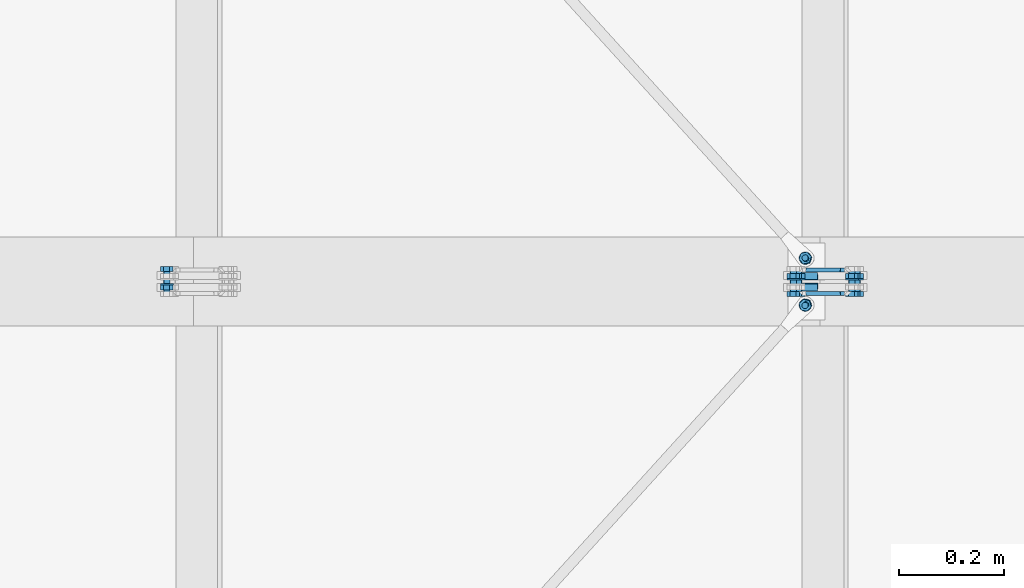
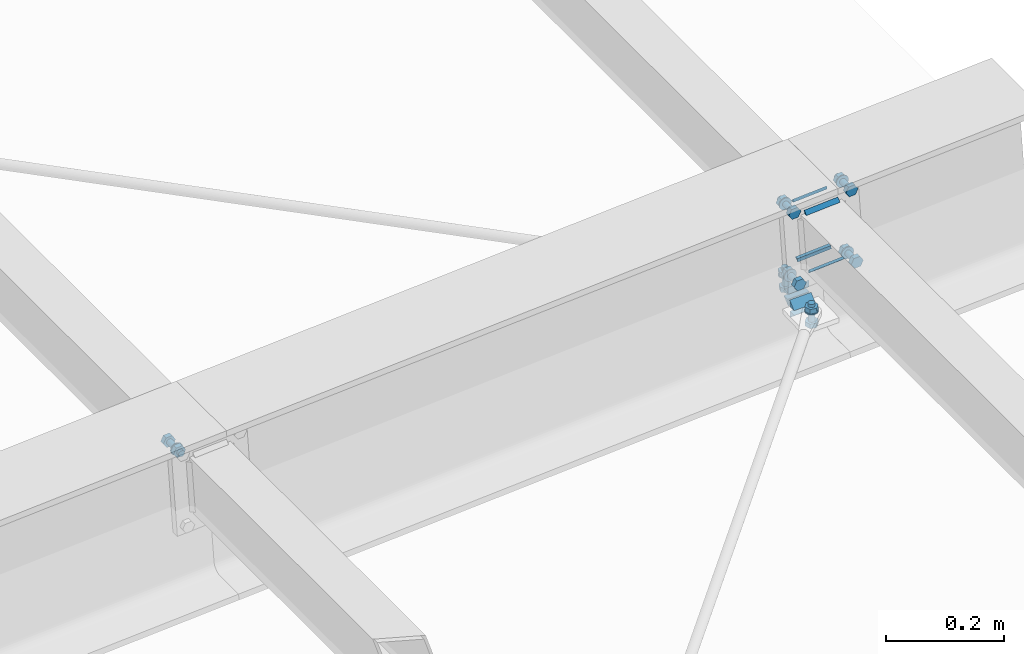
# One storey, part 61 of 72: 28 mechanical fasteners, 12 fasteners.
"""IFC4 building model written with IfcOpenShell, lengths in metres."""

from ifc_helpers import new_model, si_unit, frame, origin_with_axes, place, context, project, spatial, polyline, outline, extrude, type_object, element, save


model = new_model("IFC4")

# Units and contexts
model_context = context("Model", 3, precision=1e-05, world=origin_with_axes())
ifc_project = project(units=[si_unit("LENGTHUNIT", "METRE"), si_unit("AREAUNIT", "SQUARE_METRE"), si_unit("VOLUMEUNIT", "CUBIC_METRE"), si_unit("MASSUNIT", "GRAM", prefix="KILO"), si_unit("TIMEUNIT", "SECOND"), si_unit("PLANEANGLEUNIT", "RADIAN"), si_unit("SOLIDANGLEUNIT", "STERADIAN"), si_unit("THERMODYNAMICTEMPERATUREUNIT", "DEGREE_CELSIUS")], contexts=[model_context])

# Site, building, storey
placement_1 = place(None, origin_with_axes())
site = spatial("IfcSite", under=ifc_project, at=placement_1, Name="Italia", CompositionType="ELEMENT")
building = spatial("IfcBuilding", under=site, at=placement_1, Name="Pensilina", CompositionType="ELEMENT")
storey = spatial("IfcBuildingStorey", under=building, at=placement_1, Name="Storey 0", CompositionType="ELEMENT", Elevation=0.0)

# Mechanical fasteners
mechanical_fastener_type_1 = type_object("IfcMechanicalFastenerType", Name="Collegamento 0504_0505", PredefinedType="BOLT")
placement_2 = place(placement_1, origin_with_axes())
mechanical_fastener_1_placement = place(placement_2, origin_with_axes())
element("IfcMechanicalFastener", 1, at=mechanical_fastener_1_placement, inside=storey, type_object=mechanical_fastener_type_1, Name="Collegamento 0504_0505", NominalDiameter=0.012, context=model_context, shape_type="SweptSolid", body=[
    extrude(outline(polyline([(0.0, 0.0, 0.0), (-0.0119729, 0.000807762, 0.0), (-0.0172596, 0.0115805, 0.0), (-0.0105739, 0.0215454, 0.0), (0.00139904, 0.0207376, 0.0), (0.00668573, 0.00996494, 0.0), (0.0, 0.0, 0.0)])), frame((4.54633, 15.859, 4.00461), z_axis=(0.0, 1.0, 0.0), x_axis=(-1.0, 0.0, 0.0)), (0.0, 0.0, 1.0), 0.00959969),
])
mechanical_fastener_type_2 = type_object("IfcMechanicalFastenerType", Name="Collegamento 0504_0505", PredefinedType="BOLT")
mechanical_fastener_2_placement = place(placement_2, origin_with_axes())
element("IfcMechanicalFastener", 2, at=mechanical_fastener_2_placement, inside=storey, type_object=mechanical_fastener_type_2, Name="Collegamento 0504_0505", NominalDiameter=0.012, context=model_context, shape_type="SweptSolid", body=[
    extrude(outline(polyline([(0.0, 0.0, 0.0), (-0.000204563, -0.00155306, 0.0), (-0.000803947, -0.00299978, 0.0), (-0.00175762, -0.00424242, 0.0), (-0.00300026, -0.00519609, 0.0), (-0.00444698, -0.00579548, 0.0), (-0.00600004, -0.00600004, 0.0), (-0.0075531, -0.00579548, 0.0), (-0.00899982, -0.00519609, 0.0), (-0.0102425, -0.00424242, 0.0), (-0.0111961, -0.00299978, 0.0), (-0.0117955, -0.00155306, 0.0), (-0.0120001, 0.0, 0.0), (-0.0117955, 0.00155306, 0.0), (-0.0111961, 0.00299978, 0.0), (-0.0102425, 0.00424242, 0.0), (-0.00899982, 0.00519609, 0.0), (-0.0075531, 0.00579548, 0.0), (-0.00600004, 0.00600004, 0.0), (-0.00444698, 0.00579548, 0.0), (-0.00300026, 0.00519609, 0.0), (-0.00175762, 0.00424242, 0.0), (-0.000803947, 0.00299978, 0.0), (-0.000204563, 0.00155306, 0.0), (0.0, 0.0, 0.0)])), frame((4.54562, 15.818, 4.01539), z_axis=(0.0, 1.0, 0.0), x_axis=(-1.0, 0.0, 0.0)), (0.0, 0.0, 1.0), 0.0410004),
])
mechanical_fastener_type_3 = type_object("IfcMechanicalFastenerType", Name="Collegamento 0504_0505", PredefinedType="BOLT")
mechanical_fastener_3_placement = place(placement_2, origin_with_axes())
element("IfcMechanicalFastener", 3, at=mechanical_fastener_3_placement, inside=storey, type_object=mechanical_fastener_type_3, Name="Collegamento 0504_0505", NominalDiameter=0.012, context=model_context, shape_type="SweptSolid", body=[
    extrude(outline(polyline([(0.0, 0.0, 0.0), (-0.0119729, 0.000807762, 0.0), (-0.0172596, 0.0115805, 0.0), (-0.0105739, 0.0215454, 0.0), (0.00139904, 0.0207376, 0.0), (0.00668573, 0.00996494, 0.0), (0.0, 0.0, 0.0)])), frame((4.54633, 15.8244, 4.00461), z_axis=(0.0, 1.0, 0.0), x_axis=(-1.0, 0.0, 0.0)), (0.0, 0.0, 1.0), 0.00959969),
])
mechanical_fastener_type_4 = type_object("IfcMechanicalFastenerType", Name="Collegamento 0504_0505", PredefinedType="BOLT")
mechanical_fastener_4_placement = place(placement_2, origin_with_axes())
element("IfcMechanicalFastener", 4, at=mechanical_fastener_4_placement, inside=storey, type_object=mechanical_fastener_type_4, Name="Collegamento 0504_0505", NominalDiameter=0.024, context=model_context, shape_type="SweptSolid", body=[
    extrude(outline(polyline([(0.0, 0.0, 0.0), (-0.000409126, -0.00310564, 0.0), (-0.00160789, -0.00600004, 0.0), (-0.00351477, -0.00848532, 0.0), (-0.00600004, -0.0103922, 0.0), (-0.00889444, -0.011591, 0.0), (-0.0120001, -0.0120001, 0.0), (-0.0151057, -0.011591, 0.0), (-0.0180001, -0.0103922, 0.0), (-0.0204854, -0.00848532, 0.0), (-0.0223923, -0.00600004, 0.0), (-0.023591, -0.00310564, 0.0), (-0.0240002, 0.0, 0.0), (-0.023591, 0.00310564, 0.0), (-0.0223923, 0.00600004, 0.0), (-0.0204854, 0.00848532, 0.0), (-0.0180001, 0.0103922, 0.0), (-0.0151057, 0.011591, 0.0), (-0.0120001, 0.0120001, 0.0), (-0.00889444, 0.011591, 0.0), (-0.00600004, 0.0103922, 0.0), (-0.00351477, 0.00848532, 0.0), (-0.00160789, 0.00600004, 0.0), (-0.000409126, 0.00310564, 0.0), (0.0, 0.0, 0.0)])), frame((4.53962, 15.834, 4.01539), z_axis=(0.0, 1.0, 0.0), x_axis=(-1.0, 0.0, 0.0)), (0.0, 0.0, 1.0), 0.00199986),
])
mechanical_fastener_type_5 = type_object("IfcMechanicalFastenerType", Name="Collegamento 0604_0203", PredefinedType="BOLT")
mechanical_fastener_5_placement = place(placement_2, origin_with_axes())
element("IfcMechanicalFastener", 5, at=mechanical_fastener_5_placement, inside=storey, type_object=mechanical_fastener_type_5, Name="Collegamento 0604_0203", NominalDiameter=0.0119997, context=model_context, shape_type="SweptSolid", body=[
    extrude(outline(polyline([(0.0, 0.0, 0.0), (-4.76837e-07, 0.0120001, 0.0), (-0.0103927, 0.0180006, 0.0), (-0.0207849, 0.0120001, 0.0), (-0.0207849, 0.0, 0.0), (-0.0103922, -0.00599957, 0.0), (0.0, 0.0, 0.0)])), frame((5.7607, 15.7984, 3.87753), z_axis=(0.030993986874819, 0.034172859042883, -0.998935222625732), x_axis=(-0.740719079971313, 0.671814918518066, 0.0)), (0.0, 0.0, 1.0), 0.00960013),
])
mechanical_fastener_type_6 = type_object("IfcMechanicalFastenerType", Name="Collegamento 0604_0203", PredefinedType="BOLT")
mechanical_fastener_6_placement = place(placement_2, origin_with_axes())
element("IfcMechanicalFastener", 6, at=mechanical_fastener_6_placement, inside=storey, type_object=mechanical_fastener_type_6, Name="Collegamento 0604_0203", NominalDiameter=0.012, context=model_context, shape_type="SweptSolid", body=[
    extrude(outline(polyline([(0.0, 0.0, 0.0), (-0.000204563, -0.00155258, 0.0), (-0.000803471, -0.00300026, 0.0), (-0.00175762, -0.0042429, 0.0), (-0.00299978, -0.00519562, 0.0), (-0.00444698, -0.00579548, 0.0), (-0.00600052, -0.00600052, 0.0), (-0.00755262, -0.00579548, 0.0), (-0.00899982, -0.00519562, 0.0), (-0.0102425, -0.0042429, 0.0), (-0.0111957, -0.00300026, 0.0), (-0.0117955, -0.00155258, 0.0), (-0.0120001, 0.0, 0.0), (-0.0117955, 0.00155258, 0.0), (-0.0111966, 0.00300026, 0.0), (-0.0102425, 0.0042429, 0.0), (-0.0090003, 0.00519562, 0.0), (-0.0075531, 0.00579548, 0.0), (-0.00599957, 0.00600052, 0.0), (-0.00444746, 0.00579548, 0.0), (-0.00300026, 0.00519562, 0.0), (-0.00175762, 0.0042429, 0.0), (-0.000804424, 0.00300026, 0.0), (-0.000204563, 0.00155258, 0.0), (0.0, 0.0, 0.0)])), frame((5.7668, 15.7985, 3.91576), z_axis=(0.030981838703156, 0.034181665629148, -0.998935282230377), x_axis=(-0.74093621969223, 0.671575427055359, 0.0)), (0.0, 0.0, 1.0), 0.038),
])
mechanical_fastener_type_7 = type_object("IfcMechanicalFastenerType", Name="Collegamento 0604_0203", PredefinedType="BOLT")
mechanical_fastener_7_placement = place(placement_2, origin_with_axes())
element("IfcMechanicalFastener", 7, at=mechanical_fastener_7_placement, inside=storey, type_object=mechanical_fastener_type_7, Name="Collegamento 0604_0203", NominalDiameter=0.0119995, context=model_context, shape_type="SweptSolid", body=[
    extrude(outline(polyline([(0.0, 0.0, 0.0), (4.76837e-07, 0.012001, 0.0), (-0.0103922, 0.0180006, 0.0), (-0.0207844, 0.012001, 0.0), (-0.0207839, 9.53674e-07, 0.0), (-0.0103927, -0.00599957, 0.0), (0.0, 0.0, 0.0)])), frame((5.75972, 15.7973, 3.90909), z_axis=(0.030993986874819, 0.034172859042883, -0.998935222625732), x_axis=(-0.740719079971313, 0.671814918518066, 0.0)), (0.0, 0.0, 1.0), 0.00960013),
])
mechanical_fastener_type_8 = type_object("IfcMechanicalFastenerType", Name="Collegamento 0604_0203", PredefinedType="BOLT")
mechanical_fastener_8_placement = place(placement_2, origin_with_axes())
element("IfcMechanicalFastener", 8, at=mechanical_fastener_8_placement, inside=storey, type_object=mechanical_fastener_type_8, Name="Collegamento 0604_0203", NominalDiameter=0.024, context=model_context, shape_type="SweptSolid", body=[
    extrude(outline(polyline([(0.0, 0.0, 0.0), (-0.000409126, -0.00310612, 0.0), (-0.00160789, -0.00600052, 0.0), (-0.00351524, -0.00848579, 0.0), (-0.00600052, -0.0103931, 0.0), (-0.00889444, -0.0115919, 0.0), (-0.0120006, -0.0120001, 0.0), (-0.0151057, -0.0115919, 0.0), (-0.0180001, -0.0103922, 0.0), (-0.0204859, -0.00848579, 0.0), (-0.0223927, -0.00600052, 0.0), (-0.0235915, -0.00310707, 0.0), (-0.0240006, -9.53674e-07, 0.0), (-0.023592, 0.00310516, 0.0), (-0.0223927, 0.00599957, 0.0), (-0.0204854, 0.00848484, 0.0), (-0.0180001, 0.0103922, 0.0), (-0.0151062, 0.01159, 0.0), (-0.0120006, 0.0119991, 0.0), (-0.00889492, 0.01159, 0.0), (-0.00600052, 0.0103912, 0.0), (-0.00351477, 0.00848484, 0.0), (-0.00160837, 0.00599957, 0.0), (-0.000409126, 0.00310516, 0.0), (0.0, 0.0, 0.0)])), frame((5.76289, 15.8032, 3.89978), z_axis=(0.030997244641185, 0.03385853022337, -0.998945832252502), x_axis=(-0.737585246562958, 0.675254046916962, 0.0)), (0.0, 0.0, 1.0), 0.00199982),
])

# Fasteners
fastener_type_1 = type_object("IfcFastenerType", Name="Collegamento 0604_0203", PredefinedType="WELD")
fastener_1_placement = place(placement_2, origin_with_axes())
element("IfcFastener", 9, at=fastener_1_placement, inside=storey, type_object=fastener_type_1, Name="Collegamento 0604_0203", context=model_context, shape_type="SweptSolid", body=[
    extrude(outline(polyline([(0.0, 0.0, 0.0), (0.0136957, -0.0142241, 0.0), (-0.000469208, -0.0137401, 0.0), (0.0, 0.0, 0.0)])), frame((5.79466, 15.8358, 3.90358), z_axis=(-0.99951958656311, 0.0, -0.030993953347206), x_axis=(0.0, -1.0, 0.0)), (0.0, 0.0, 1.0), 0.0421006),
])
fastener_type_2 = type_object("IfcFastenerType", Name="Collegamento 0604_0203", PredefinedType="WELD")
fastener_2_placement = place(placement_2, origin_with_axes())
element("IfcFastener", 10, at=fastener_2_placement, inside=storey, type_object=fastener_type_2, Name="Collegamento 0604_0203", context=model_context, shape_type="SweptSolid", body=[
    extrude(outline(polyline([(0.0, 0.0, 0.0), (-0.0146341, 0.0132563, 0.0), (-0.000469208, 0.0137403, 0.0), (0.0, 0.0, 0.0)])), frame((5.75374, 15.837, 3.86492), z_axis=(0.999519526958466, 0.0, 0.030995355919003), x_axis=(0.0, 1.0, 0.0)), (0.0, 0.0, 1.0), 0.0420987),
])

# Mechanical fasteners
mechanical_fastener_type_9 = type_object("IfcMechanicalFastenerType", Name="Collegamento 0604_0205", PredefinedType="BOLT")
mechanical_fastener_9_placement = place(placement_2, origin_with_axes())
element("IfcMechanicalFastener", 11, at=mechanical_fastener_9_placement, inside=storey, type_object=mechanical_fastener_type_9, Name="Collegamento 0604_0205", NominalDiameter=0.0119994, context=model_context, shape_type="SweptSolid", body=[
    extrude(outline(polyline([(0.0, 0.0, 0.0), (-7.62939e-06, 0.0119996, 0.0), (-0.0104036, 0.017993, 0.0), (-0.020793, 0.0119863, 0.0), (-0.0207844, -1.38283e-05, 0.0), (-0.0103884, -0.00600719, 0.0), (0.0, 0.0, 0.0)])), frame((5.7761, 15.8956, 3.89755), z_axis=(0.030945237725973, -0.034074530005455, -0.998940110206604), x_axis=(0.740281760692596, 0.672296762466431, 0.0)), (0.0, 0.0, 1.0), 0.00959985),
])
mechanical_fastener_type_10 = type_object("IfcMechanicalFastenerType", Name="Collegamento 0604_0205", PredefinedType="BOLT")
mechanical_fastener_10_placement = place(placement_2, origin_with_axes())
element("IfcMechanicalFastener", 12, at=mechanical_fastener_10_placement, inside=storey, type_object=mechanical_fastener_type_10, Name="Collegamento 0604_0205", NominalDiameter=0.012, context=model_context, shape_type="SweptSolid", body=[
    extrude(outline(polyline([(0.0, 0.0, 0.0), (-0.000204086, -0.00155258, 0.0), (-0.000803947, -0.00299978, 0.0), (-0.00175762, -0.0042429, 0.0), (-0.00300026, -0.00519609, 0.0), (-0.00444698, -0.00579548, 0.0), (-0.00599957, -0.00600052, 0.0), (-0.0075531, -0.00579548, 0.0), (-0.00899982, -0.00519609, 0.0), (-0.0102425, -0.00424242, 0.0), (-0.0111961, -0.00300026, 0.0), (-0.011795, -0.00155306, 0.0), (-0.0120001, 0.0, 0.0), (-0.011795, 0.00155258, 0.0), (-0.0111952, 0.00299978, 0.0), (-0.0102425, 0.00424242, 0.0), (-0.00899982, 0.00519562, 0.0), (-0.00755215, 0.005795, 0.0), (-0.00600052, 0.00600004, 0.0), (-0.00444698, 0.005795, 0.0), (-0.00299931, 0.00519609, 0.0), (-0.00175762, 0.00424242, 0.0), (-0.000802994, 0.00299978, 0.0), (-0.000204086, 0.00155258, 0.0), (0.0, 0.0, 0.0)])), frame((5.7757, 15.8895, 3.93578), z_axis=(0.030981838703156, -0.034181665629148, -0.998935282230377), x_axis=(0.74093621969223, 0.671575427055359, 0.0)), (0.0, 0.0, 1.0), 0.038),
])
mechanical_fastener_type_11 = type_object("IfcMechanicalFastenerType", Name="Collegamento 0604_0205", PredefinedType="BOLT")
mechanical_fastener_11_placement = place(placement_2, origin_with_axes())
element("IfcMechanicalFastener", 13, at=mechanical_fastener_11_placement, inside=storey, type_object=mechanical_fastener_type_11, Name="Collegamento 0604_0205", NominalDiameter=0.0119997, context=model_context, shape_type="SweptSolid", body=[
    extrude(outline(polyline([(0.0, 0.0, 0.0), (-9.53674e-07, 0.0120001, 0.0), (-0.0103931, 0.0180001, 0.0), (-0.0207853, 0.0119996, 0.0), (-0.0207853, 0.0, 0.0), (-0.0103922, -0.00600052, 0.0), (0.0, 0.0, 0.0)])), frame((5.77512, 15.8967, 3.92911), z_axis=(0.030994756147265, -0.034173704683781, -0.998935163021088), x_axis=(0.740719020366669, 0.671814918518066, 0.0)), (0.0, 0.0, 1.0), 0.00959989),
])
mechanical_fastener_type_12 = type_object("IfcMechanicalFastenerType", Name="Collegamento 0604_0205", PredefinedType="BOLT")
mechanical_fastener_12_placement = place(placement_2, origin_with_axes())
element("IfcMechanicalFastener", 14, at=mechanical_fastener_12_placement, inside=storey, type_object=mechanical_fastener_type_12, Name="Collegamento 0604_0205", NominalDiameter=0.024, context=model_context, shape_type="SweptSolid", body=[
    extrude(outline(polyline([(0.0, 0.0, 0.0), (-0.00041008, -0.00310564, 0.0), (-0.00160885, -0.00600004, 0.0), (-0.00351524, -0.00848532, 0.0), (-0.00600052, -0.0103927, 0.0), (-0.00889492, -0.011591, 0.0), (-0.012001, -0.0120006, 0.0), (-0.0151062, -0.0115914, 0.0), (-0.0180006, -0.0103927, 0.0), (-0.0204859, -0.00848532, 0.0), (-0.0223932, -0.00600052, 0.0), (-0.023592, -0.00310564, 0.0), (-0.0240011, 0.0, 0.0), (-0.023591, 0.00310564, 0.0), (-0.0223923, 0.00600004, 0.0), (-0.0204859, 0.00848484, 0.0), (-0.0180006, 0.0103922, 0.0), (-0.0151062, 0.011591, 0.0), (-0.012001, 0.0120001, 0.0), (-0.00889492, 0.011591, 0.0), (-0.00600052, 0.0103922, 0.0), (-0.00351524, 0.00848484, 0.0), (-0.00160885, 0.00600004, 0.0), (-0.000409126, 0.00310564, 0.0), (0.0, 0.0, 0.0)])), frame((5.78065, 15.893, 3.9198), z_axis=(0.030993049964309, -0.034330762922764, -0.998929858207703), x_axis=(0.742268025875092, 0.670103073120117, 0.0)), (0.0, 0.0, 1.0), 0.00200009),
])

# Fasteners
fastener_type_3 = type_object("IfcFastenerType", Name="Collegamento 0604_0205", PredefinedType="WELD")
fastener_3_placement = place(placement_2, origin_with_axes())
element("IfcFastener", 15, at=fastener_3_placement, inside=storey, type_object=fastener_type_3, Name="Collegamento 0604_0205", context=model_context, shape_type="SweptSolid", body=[
    extrude(outline(polyline([(0.0, 0.0, 0.0), (0.0136957, -0.0142243, 0.0), (-0.000469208, -0.0137403, 0.0), (0.0, 0.0, 0.0)])), frame((5.75258, 15.8442, 3.9223), z_axis=(0.999519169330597, 0.0, 0.031006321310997), x_axis=(0.0, 1.0, 0.0)), (0.0, 0.0, 1.0), 0.0420992),
])
fastener_type_4 = type_object("IfcFastenerType", Name="Collegamento 0604_0205", PredefinedType="WELD")
fastener_4_placement = place(placement_2, origin_with_axes())
element("IfcFastener", 16, at=fastener_4_placement, inside=storey, type_object=fastener_type_4, Name="Collegamento 0604_0205", context=model_context, shape_type="SweptSolid", body=[
    extrude(outline(polyline([(0.0, 0.0, 0.0), (-0.0146341, 0.0132561, 0.0), (-0.000469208, 0.0137403, 0.0), (0.0, 0.0, 0.0)])), frame((5.79582, 15.843, 3.88625), z_axis=(-0.999519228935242, 0.0, -0.031005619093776), x_axis=(0.0, -1.0, 0.0)), (0.0, 0.0, 1.0), 0.0421002),
])
fastener_type_5 = type_object("IfcFastenerType", Name="Collegamento 0604_0603", PredefinedType="WELD")
fastener_5_placement = place(placement_2, origin_with_axes())
element("IfcFastener", 17, at=fastener_5_placement, inside=storey, type_object=fastener_type_5, Name="Collegamento 0604_0603", context=model_context, shape_type="SweptSolid", body=[
    extrude(outline(polyline([(0.0, 0.0, 0.0), (0.00717354, -0.00695801, 0.0), (0.0, -0.00695801, 0.0), (0.0, 0.0, 0.0)])), frame((5.83828, 15.8211, 4.09456), z_axis=(-0.997731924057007, 0.0, -0.067312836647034), x_axis=(0.0, -1.0, 0.0)), (0.0, 0.0, 1.0), 0.0660998),
])
fastener_type_6 = type_object("IfcFastenerType", Name="Collegamento 0604_0603", PredefinedType="WELD")
fastener_6_placement = place(placement_2, origin_with_axes())
element("IfcFastener", 18, at=fastener_6_placement, inside=storey, type_object=fastener_type_6, Name="Collegamento 0604_0603", context=model_context, shape_type="SweptSolid", body=[
    extrude(outline(polyline([(0.0, 0.0, 0.0), (-0.00717354, 0.00695801, 0.0), (0.0, 0.00695801, 0.0), (0.0, 0.0, 0.0)])), frame((5.78134, 15.8211, 3.9566), z_axis=(0.997731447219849, 0.0, 0.06731953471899), x_axis=(0.0, 1.0, 0.0)), (0.0, 0.0, 1.0), 0.0661003),
])
fastener_type_7 = type_object("IfcFastenerType", Name="Collegamento 0604_0603", PredefinedType="WELD")
fastener_7_placement = place(placement_2, origin_with_axes())
element("IfcFastener", 19, at=fastener_7_placement, inside=storey, type_object=fastener_type_7, Name="Collegamento 0604_0603", context=model_context, shape_type="SweptSolid", body=[
    extrude(outline(polyline([(0.0, 0.0, 0.0), (0.00717354, -0.00695801, 0.0), (0.0, -0.00695801, 0.0), (0.0, 0.0, 0.0)])), frame((5.83828, 15.8211, 4.09456), z_axis=(-0.997731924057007, 0.0, -0.067312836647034), x_axis=(0.0, -1.0, 0.0)), (0.0, 0.0, 1.0), 0.0660998),
])
fastener_type_8 = type_object("IfcFastenerType", Name="Collegamento 0604_0603", PredefinedType="WELD")
fastener_8_placement = place(placement_2, origin_with_axes())
element("IfcFastener", 20, at=fastener_8_placement, inside=storey, type_object=fastener_type_8, Name="Collegamento 0604_0603", context=model_context, shape_type="SweptSolid", body=[
    extrude(outline(polyline([(0.0, 0.0, 0.0), (-0.00717354, 0.00695801, 0.0), (0.0, 0.00695801, 0.0), (0.0, 0.0, 0.0)])), frame((5.78134, 15.8211, 3.9566), z_axis=(0.997731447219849, 0.0, 0.06731953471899), x_axis=(0.0, 1.0, 0.0)), (0.0, 0.0, 1.0), 0.0661003),
])

# Mechanical fasteners
mechanical_fastener_type_13 = type_object("IfcMechanicalFastenerType", Name="Collegamento 0604_0603", PredefinedType="BOLT")
mechanical_fastener_13_placement = place(placement_2, origin_with_axes())
element("IfcMechanicalFastener", 21, at=mechanical_fastener_13_placement, inside=storey, type_object=mechanical_fastener_type_13, Name="Collegamento 0604_0603", NominalDiameter=0.0119998, context=model_context, shape_type="SweptSolid", body=[
    extrude(outline(polyline([(0.0, 0.0, 0.0), (-0.0119729, -0.000807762, 0.0), (-0.0186586, 0.00915718, 0.0), (-0.0133719, 0.0199296, 0.0), (-0.00139904, 0.0207376, 0.0), (0.00528669, 0.0107727, 0.0), (0.0, 0.0, 0.0)])), frame((5.76574, 15.821, 3.93602), z_axis=(0.0, -1.0, 0.0), x_axis=(1.0, 0.0, 0.0)), (0.0, 0.0, 1.0), 0.00959969),
])
mechanical_fastener_type_14 = type_object("IfcMechanicalFastenerType", Name="Collegamento 0604_0603", PredefinedType="BOLT")
mechanical_fastener_14_placement = place(placement_2, origin_with_axes())
element("IfcMechanicalFastener", 22, at=mechanical_fastener_14_placement, inside=storey, type_object=mechanical_fastener_type_14, Name="Collegamento 0604_0603", NominalDiameter=0.012, context=model_context, shape_type="SweptSolid", body=[
    extrude(outline(polyline([(0.0, 0.0, 0.0), (-0.000204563, -0.00155282, 0.0), (-0.000803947, -0.00300002, 0.0), (-0.00175762, -0.00424266, 0.0), (-0.00300026, -0.00519609, 0.0), (-0.00444698, -0.00579548, 0.0), (-0.00600004, -0.00600004, 0.0), (-0.0075531, -0.00579548, 0.0), (-0.00899982, -0.00519609, 0.0), (-0.0102425, -0.00424266, 0.0), (-0.0111961, -0.00300002, 0.0), (-0.0117955, -0.00155282, 0.0), (-0.0120001, 0.0, 0.0), (-0.0117955, 0.00155282, 0.0), (-0.0111961, 0.00300002, 0.0), (-0.0102425, 0.00424266, 0.0), (-0.00899982, 0.00519609, 0.0), (-0.0075531, 0.00579548, 0.0), (-0.00600004, 0.00600004, 0.0), (-0.00444698, 0.00579548, 0.0), (-0.00300026, 0.00519609, 0.0), (-0.00175762, 0.00424266, 0.0), (-0.000803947, 0.00300002, 0.0), (-0.000204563, 0.00155282, 0.0), (0.0, 0.0, 0.0)])), frame((5.76506, 15.862, 3.94598), z_axis=(0.0, -1.0, 0.0), x_axis=(1.0, 0.0, 0.0)), (0.0, 0.0, 1.0), 0.0410004),
])
mechanical_fastener_type_15 = type_object("IfcMechanicalFastenerType", Name="Collegamento 0604_0603", PredefinedType="BOLT")
mechanical_fastener_15_placement = place(placement_2, origin_with_axes())
element("IfcMechanicalFastener", 23, at=mechanical_fastener_15_placement, inside=storey, type_object=mechanical_fastener_type_15, Name="Collegamento 0604_0603", NominalDiameter=0.0119998, context=model_context, shape_type="SweptSolid", body=[
    extrude(outline(polyline([(0.0, 0.0, 0.0), (-0.0119729, -0.000807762, 0.0), (-0.0186586, 0.00915718, 0.0), (-0.0133719, 0.0199296, 0.0), (-0.00139904, 0.0207376, 0.0), (0.00528669, 0.0107727, 0.0), (0.0, 0.0, 0.0)])), frame((5.76574, 15.8556, 3.93602), z_axis=(0.0, -1.0, 0.0), x_axis=(1.0, 0.0, 0.0)), (0.0, 0.0, 1.0), 0.00959969),
])
mechanical_fastener_type_16 = type_object("IfcMechanicalFastenerType", Name="Collegamento 0604_0603", PredefinedType="BOLT")
mechanical_fastener_16_placement = place(placement_2, origin_with_axes())
element("IfcMechanicalFastener", 24, at=mechanical_fastener_16_placement, inside=storey, type_object=mechanical_fastener_type_16, Name="Collegamento 0604_0603", NominalDiameter=0.024, context=model_context, shape_type="SweptSolid", body=[
    extrude(outline(polyline([(0.0, 0.0, 0.0), (-0.000409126, -0.00310588, 0.0), (-0.00160789, -0.00600004, 0.0), (-0.00351477, -0.00848532, 0.0), (-0.00600004, -0.0103922, 0.0), (-0.00889444, -0.0115912, 0.0), (-0.0120001, -0.0120001, 0.0), (-0.0151057, -0.0115912, 0.0), (-0.0180001, -0.0103922, 0.0), (-0.0204854, -0.00848532, 0.0), (-0.0223923, -0.00600004, 0.0), (-0.023591, -0.00310588, 0.0), (-0.0240002, 0.0, 0.0), (-0.023591, 0.00310588, 0.0), (-0.0223923, 0.00600004, 0.0), (-0.0204854, 0.00848532, 0.0), (-0.0180001, 0.0103922, 0.0), (-0.0151057, 0.0115912, 0.0), (-0.0120001, 0.0120001, 0.0), (-0.00889444, 0.0115912, 0.0), (-0.00600004, 0.0103922, 0.0), (-0.00351477, 0.00848532, 0.0), (-0.00160789, 0.00600004, 0.0), (-0.000409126, 0.00310588, 0.0), (0.0, 0.0, 0.0)])), frame((5.77106, 15.846, 3.94598), z_axis=(0.0, -1.0, 0.0), x_axis=(1.0, 0.0, 0.0)), (0.0, 0.0, 1.0), 0.00199986),
])
mechanical_fastener_type_17 = type_object("IfcMechanicalFastenerType", Name="Collegamento 0604_0603", PredefinedType="BOLT")
mechanical_fastener_17_placement = place(placement_2, origin_with_axes())
element("IfcMechanicalFastener", 25, at=mechanical_fastener_17_placement, inside=storey, type_object=mechanical_fastener_type_17, Name="Collegamento 0604_0603", NominalDiameter=0.0119998, context=model_context, shape_type="SweptSolid", body=[
    extrude(outline(polyline([(0.0, 0.0, 0.0), (-0.0119729, -0.000807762, 0.0), (-0.0186586, 0.00915718, 0.0), (-0.0133719, 0.0199296, 0.0), (-0.00139904, 0.0207376, 0.0), (0.00528669, 0.0107727, 0.0), (0.0, 0.0, 0.0)])), frame((5.87749, 15.821, 3.94355), z_axis=(0.0, -1.0, 0.0), x_axis=(1.0, 0.0, 0.0)), (0.0, 0.0, 1.0), 0.00959969),
])
mechanical_fastener_type_18 = type_object("IfcMechanicalFastenerType", Name="Collegamento 0604_0603", PredefinedType="BOLT")
mechanical_fastener_18_placement = place(placement_2, origin_with_axes())
element("IfcMechanicalFastener", 26, at=mechanical_fastener_18_placement, inside=storey, type_object=mechanical_fastener_type_18, Name="Collegamento 0604_0603", NominalDiameter=0.012, context=model_context, shape_type="SweptSolid", body=[
    extrude(outline(polyline([(0.0, 0.0, 0.0), (-0.000204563, -0.00155282, 0.0), (-0.000803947, -0.00300002, 0.0), (-0.00175762, -0.00424266, 0.0), (-0.00300026, -0.00519609, 0.0), (-0.00444698, -0.00579548, 0.0), (-0.00600004, -0.00600004, 0.0), (-0.0075531, -0.00579548, 0.0), (-0.00899982, -0.00519609, 0.0), (-0.0102425, -0.00424266, 0.0), (-0.0111961, -0.00300002, 0.0), (-0.0117955, -0.00155282, 0.0), (-0.0120001, 0.0, 0.0), (-0.0117955, 0.00155282, 0.0), (-0.0111961, 0.00300002, 0.0), (-0.0102425, 0.00424266, 0.0), (-0.00899982, 0.00519609, 0.0), (-0.0075531, 0.00579548, 0.0), (-0.00600004, 0.00600004, 0.0), (-0.00444698, 0.00579548, 0.0), (-0.00300026, 0.00519609, 0.0), (-0.00175762, 0.00424266, 0.0), (-0.000803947, 0.00300002, 0.0), (-0.000204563, 0.00155282, 0.0), (0.0, 0.0, 0.0)])), frame((5.8768, 15.862, 3.95352), z_axis=(0.0, -1.0, 0.0), x_axis=(1.0, 0.0, 0.0)), (0.0, 0.0, 1.0), 0.0410004),
])
mechanical_fastener_type_19 = type_object("IfcMechanicalFastenerType", Name="Collegamento 0604_0603", PredefinedType="BOLT")
mechanical_fastener_19_placement = place(placement_2, origin_with_axes())
element("IfcMechanicalFastener", 27, at=mechanical_fastener_19_placement, inside=storey, type_object=mechanical_fastener_type_19, Name="Collegamento 0604_0603", NominalDiameter=0.0119998, context=model_context, shape_type="SweptSolid", body=[
    extrude(outline(polyline([(0.0, 0.0, 0.0), (-0.0119729, -0.000807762, 0.0), (-0.0186586, 0.00915718, 0.0), (-0.0133719, 0.0199296, 0.0), (-0.00139904, 0.0207376, 0.0), (0.00528669, 0.0107727, 0.0), (0.0, 0.0, 0.0)])), frame((5.87749, 15.8556, 3.94355), z_axis=(0.0, -1.0, 0.0), x_axis=(1.0, 0.0, 0.0)), (0.0, 0.0, 1.0), 0.00959969),
])
mechanical_fastener_type_20 = type_object("IfcMechanicalFastenerType", Name="Collegamento 0604_0603", PredefinedType="BOLT")
mechanical_fastener_20_placement = place(placement_2, origin_with_axes())
element("IfcMechanicalFastener", 28, at=mechanical_fastener_20_placement, inside=storey, type_object=mechanical_fastener_type_20, Name="Collegamento 0604_0603", NominalDiameter=0.024, context=model_context, shape_type="SweptSolid", body=[
    extrude(outline(polyline([(0.0, 0.0, 0.0), (-0.000409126, -0.00310588, 0.0), (-0.00160789, -0.00600004, 0.0), (-0.00351477, -0.00848532, 0.0), (-0.00600004, -0.0103922, 0.0), (-0.00889444, -0.0115912, 0.0), (-0.0120001, -0.0120001, 0.0), (-0.0151057, -0.0115912, 0.0), (-0.0180001, -0.0103922, 0.0), (-0.0204854, -0.00848532, 0.0), (-0.0223923, -0.00600004, 0.0), (-0.023591, -0.00310588, 0.0), (-0.0240002, 0.0, 0.0), (-0.023591, 0.00310588, 0.0), (-0.0223923, 0.00600004, 0.0), (-0.0204854, 0.00848532, 0.0), (-0.0180001, 0.0103922, 0.0), (-0.0151057, 0.0115912, 0.0), (-0.0120001, 0.0120001, 0.0), (-0.00889444, 0.0115912, 0.0), (-0.00600004, 0.0103922, 0.0), (-0.00351477, 0.00848532, 0.0), (-0.00160789, 0.00600004, 0.0), (-0.000409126, 0.00310588, 0.0), (0.0, 0.0, 0.0)])), frame((5.8828, 15.846, 3.95352), z_axis=(0.0, -1.0, 0.0), x_axis=(1.0, 0.0, 0.0)), (0.0, 0.0, 1.0), 0.00199986),
])
mechanical_fastener_type_21 = type_object("IfcMechanicalFastenerType", Name="Collegamento 0604_0603", PredefinedType="BOLT")
mechanical_fastener_21_placement = place(placement_2, origin_with_axes())
element("IfcMechanicalFastener", 29, at=mechanical_fastener_21_placement, inside=storey, type_object=mechanical_fastener_type_21, Name="Collegamento 0604_0603", NominalDiameter=0.012, context=model_context, shape_type="SweptSolid", body=[
    extrude(outline(polyline([(0.0, 0.0, 0.0), (-0.0119729, -0.000807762, 0.0), (-0.0186586, 0.00915718, 0.0), (-0.0133719, 0.0199299, 0.0), (-0.00139904, 0.0207376, 0.0), (0.00528669, 0.0107727, 0.0), (0.0, 0.0, 0.0)])), frame((5.75551, 15.821, 4.08767), z_axis=(0.0, -1.0, 0.0), x_axis=(1.0, 0.0, 0.0)), (0.0, 0.0, 1.0), 0.00959969),
])
mechanical_fastener_type_22 = type_object("IfcMechanicalFastenerType", Name="Collegamento 0604_0603", PredefinedType="BOLT")
mechanical_fastener_22_placement = place(placement_2, origin_with_axes())
element("IfcMechanicalFastener", 30, at=mechanical_fastener_22_placement, inside=storey, type_object=mechanical_fastener_type_22, Name="Collegamento 0604_0603", NominalDiameter=0.012, context=model_context, shape_type="SweptSolid", body=[
    extrude(outline(polyline([(0.0, 0.0, 0.0), (-0.000204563, -0.00155306, 0.0), (-0.000803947, -0.00299978, 0.0), (-0.00175762, -0.00424242, 0.0), (-0.00300026, -0.00519609, 0.0), (-0.00444698, -0.00579548, 0.0), (-0.00600004, -0.00600004, 0.0), (-0.0075531, -0.00579548, 0.0), (-0.00899982, -0.00519609, 0.0), (-0.0102425, -0.00424242, 0.0), (-0.0111961, -0.00299978, 0.0), (-0.0117955, -0.00155306, 0.0), (-0.0120001, 0.0, 0.0), (-0.0117955, 0.00155306, 0.0), (-0.0111961, 0.00299978, 0.0), (-0.0102425, 0.00424242, 0.0), (-0.00899982, 0.00519609, 0.0), (-0.0075531, 0.00579548, 0.0), (-0.00600004, 0.00600004, 0.0), (-0.00444698, 0.00579548, 0.0), (-0.00300026, 0.00519609, 0.0), (-0.00175762, 0.00424242, 0.0), (-0.000803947, 0.00299978, 0.0), (-0.000204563, 0.00155306, 0.0), (0.0, 0.0, 0.0)])), frame((5.75482, 15.862, 4.09764), z_axis=(0.0, -1.0, 0.0), x_axis=(1.0, 0.0, 0.0)), (0.0, 0.0, 1.0), 0.0410004),
])
mechanical_fastener_type_23 = type_object("IfcMechanicalFastenerType", Name="Collegamento 0604_0603", PredefinedType="BOLT")
mechanical_fastener_23_placement = place(placement_2, origin_with_axes())
element("IfcMechanicalFastener", 31, at=mechanical_fastener_23_placement, inside=storey, type_object=mechanical_fastener_type_23, Name="Collegamento 0604_0603", NominalDiameter=0.012, context=model_context, shape_type="SweptSolid", body=[
    extrude(outline(polyline([(0.0, 0.0, 0.0), (-0.0119729, -0.000807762, 0.0), (-0.0186586, 0.00915718, 0.0), (-0.0133719, 0.0199299, 0.0), (-0.00139904, 0.0207376, 0.0), (0.00528669, 0.0107727, 0.0), (0.0, 0.0, 0.0)])), frame((5.75551, 15.8556, 4.08767), z_axis=(0.0, -1.0, 0.0), x_axis=(1.0, 0.0, 0.0)), (0.0, 0.0, 1.0), 0.00959969),
])
mechanical_fastener_type_24 = type_object("IfcMechanicalFastenerType", Name="Collegamento 0604_0603", PredefinedType="BOLT")
mechanical_fastener_24_placement = place(placement_2, origin_with_axes())
element("IfcMechanicalFastener", 32, at=mechanical_fastener_24_placement, inside=storey, type_object=mechanical_fastener_type_24, Name="Collegamento 0604_0603", NominalDiameter=0.024, context=model_context, shape_type="SweptSolid", body=[
    extrude(outline(polyline([(0.0, 0.0, 0.0), (-0.000409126, -0.00310564, 0.0), (-0.00160789, -0.00600004, 0.0), (-0.00351477, -0.00848532, 0.0), (-0.00600004, -0.0103922, 0.0), (-0.00889444, -0.011591, 0.0), (-0.0120001, -0.0120001, 0.0), (-0.0151057, -0.011591, 0.0), (-0.0180001, -0.0103922, 0.0), (-0.0204854, -0.00848532, 0.0), (-0.0223923, -0.00600004, 0.0), (-0.023591, -0.00310564, 0.0), (-0.0240002, 0.0, 0.0), (-0.023591, 0.00310564, 0.0), (-0.0223923, 0.00600004, 0.0), (-0.0204854, 0.00848532, 0.0), (-0.0180001, 0.0103922, 0.0), (-0.0151057, 0.011591, 0.0), (-0.0120001, 0.0120001, 0.0), (-0.00889444, 0.011591, 0.0), (-0.00600004, 0.0103922, 0.0), (-0.00351477, 0.00848532, 0.0), (-0.00160789, 0.00600004, 0.0), (-0.000409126, 0.00310564, 0.0), (0.0, 0.0, 0.0)])), frame((5.76082, 15.846, 4.09764), z_axis=(0.0, -1.0, 0.0), x_axis=(1.0, 0.0, 0.0)), (0.0, 0.0, 1.0), 0.00199986),
])
mechanical_fastener_type_25 = type_object("IfcMechanicalFastenerType", Name="Collegamento 0604_0603", PredefinedType="BOLT")
mechanical_fastener_25_placement = place(placement_2, origin_with_axes())
element("IfcMechanicalFastener", 33, at=mechanical_fastener_25_placement, inside=storey, type_object=mechanical_fastener_type_25, Name="Collegamento 0604_0603", NominalDiameter=0.012, context=model_context, shape_type="SweptSolid", body=[
    extrude(outline(polyline([(0.0, 0.0, 0.0), (-0.0119729, -0.000807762, 0.0), (-0.0186586, 0.00915718, 0.0), (-0.0133719, 0.0199299, 0.0), (-0.00139904, 0.0207376, 0.0), (0.00528669, 0.0107727, 0.0), (0.0, 0.0, 0.0)])), frame((5.86726, 15.821, 4.09521), z_axis=(0.0, -1.0, 0.0), x_axis=(1.0, 0.0, 0.0)), (0.0, 0.0, 1.0), 0.00959969),
])
mechanical_fastener_type_26 = type_object("IfcMechanicalFastenerType", Name="Collegamento 0604_0603", PredefinedType="BOLT")
mechanical_fastener_26_placement = place(placement_2, origin_with_axes())
element("IfcMechanicalFastener", 34, at=mechanical_fastener_26_placement, inside=storey, type_object=mechanical_fastener_type_26, Name="Collegamento 0604_0603", NominalDiameter=0.012, context=model_context, shape_type="SweptSolid", body=[
    extrude(outline(polyline([(0.0, 0.0, 0.0), (-0.000204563, -0.00155306, 0.0), (-0.000803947, -0.00299978, 0.0), (-0.00175762, -0.00424242, 0.0), (-0.00300026, -0.00519609, 0.0), (-0.00444698, -0.00579548, 0.0), (-0.00600004, -0.00600004, 0.0), (-0.0075531, -0.00579548, 0.0), (-0.00899982, -0.00519609, 0.0), (-0.0102425, -0.00424242, 0.0), (-0.0111961, -0.00299978, 0.0), (-0.0117955, -0.00155306, 0.0), (-0.0120001, 0.0, 0.0), (-0.0117955, 0.00155306, 0.0), (-0.0111961, 0.00299978, 0.0), (-0.0102425, 0.00424242, 0.0), (-0.00899982, 0.00519609, 0.0), (-0.0075531, 0.00579548, 0.0), (-0.00600004, 0.00600004, 0.0), (-0.00444698, 0.00579548, 0.0), (-0.00300026, 0.00519609, 0.0), (-0.00175762, 0.00424242, 0.0), (-0.000803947, 0.00299978, 0.0), (-0.000204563, 0.00155306, 0.0), (0.0, 0.0, 0.0)])), frame((5.86657, 15.862, 4.10518), z_axis=(0.0, -1.0, 0.0), x_axis=(1.0, 0.0, 0.0)), (0.0, 0.0, 1.0), 0.0410004),
])
mechanical_fastener_type_27 = type_object("IfcMechanicalFastenerType", Name="Collegamento 0604_0603", PredefinedType="BOLT")
mechanical_fastener_27_placement = place(placement_2, origin_with_axes())
element("IfcMechanicalFastener", 35, at=mechanical_fastener_27_placement, inside=storey, type_object=mechanical_fastener_type_27, Name="Collegamento 0604_0603", NominalDiameter=0.012, context=model_context, shape_type="SweptSolid", body=[
    extrude(outline(polyline([(0.0, 0.0, 0.0), (-0.0119729, -0.000807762, 0.0), (-0.0186586, 0.00915718, 0.0), (-0.0133719, 0.0199299, 0.0), (-0.00139904, 0.0207376, 0.0), (0.00528669, 0.0107727, 0.0), (0.0, 0.0, 0.0)])), frame((5.86726, 15.8556, 4.09521), z_axis=(0.0, -1.0, 0.0), x_axis=(1.0, 0.0, 0.0)), (0.0, 0.0, 1.0), 0.00959969),
])
mechanical_fastener_type_28 = type_object("IfcMechanicalFastenerType", Name="Collegamento 0604_0603", PredefinedType="BOLT")
mechanical_fastener_28_placement = place(placement_2, origin_with_axes())
element("IfcMechanicalFastener", 36, at=mechanical_fastener_28_placement, inside=storey, type_object=mechanical_fastener_type_28, Name="Collegamento 0604_0603", NominalDiameter=0.024, context=model_context, shape_type="SweptSolid", body=[
    extrude(outline(polyline([(0.0, 0.0, 0.0), (-0.000409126, -0.00310564, 0.0), (-0.00160789, -0.00600004, 0.0), (-0.00351477, -0.00848532, 0.0), (-0.00600004, -0.0103922, 0.0), (-0.00889444, -0.011591, 0.0), (-0.0120001, -0.0120001, 0.0), (-0.0151057, -0.011591, 0.0), (-0.0180001, -0.0103922, 0.0), (-0.0204854, -0.00848532, 0.0), (-0.0223923, -0.00600004, 0.0), (-0.023591, -0.00310564, 0.0), (-0.0240002, 0.0, 0.0), (-0.023591, 0.00310564, 0.0), (-0.0223923, 0.00600004, 0.0), (-0.0204854, 0.00848532, 0.0), (-0.0180001, 0.0103922, 0.0), (-0.0151057, 0.011591, 0.0), (-0.0120001, 0.0120001, 0.0), (-0.00889444, 0.011591, 0.0), (-0.00600004, 0.0103922, 0.0), (-0.00351477, 0.00848532, 0.0), (-0.00160789, 0.00600004, 0.0), (-0.000409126, 0.00310564, 0.0), (0.0, 0.0, 0.0)])), frame((5.87257, 15.846, 4.10518), z_axis=(0.0, -1.0, 0.0), x_axis=(1.0, 0.0, 0.0)), (0.0, 0.0, 1.0), 0.00199986),
])

# Fasteners
fastener_type_9 = type_object("IfcFastenerType", Name="Collegamento 0604_0605", PredefinedType="WELD")
fastener_9_placement = place(placement_2, origin_with_axes())
element("IfcFastener", 37, at=fastener_9_placement, inside=storey, type_object=fastener_type_9, Name="Collegamento 0604_0605", context=model_context, shape_type="SweptSolid", body=[
    extrude(outline(polyline([(0.0, 0.0, 0.0), (0.00717354, -0.00695801, 0.0), (0.0, -0.00695801, 0.0), (0.0, 0.0, 0.0)])), frame((5.77233, 15.8589, 4.09011), z_axis=(0.997731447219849, 0.0, 0.067320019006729), x_axis=(0.0, 1.0, 0.0)), (0.0, 0.0, 1.0), 0.0660999),
])
fastener_type_10 = type_object("IfcFastenerType", Name="Collegamento 0604_0605", PredefinedType="WELD")
fastener_10_placement = place(placement_2, origin_with_axes())
element("IfcFastener", 38, at=fastener_10_placement, inside=storey, type_object=fastener_type_10, Name="Collegamento 0604_0605", context=model_context, shape_type="SweptSolid", body=[
    extrude(outline(polyline([(0.0, 0.0, 0.0), (-0.00717354, 0.00695848, 0.0), (0.0, 0.00695848, 0.0), (0.0, 0.0, 0.0)])), frame((5.84729, 15.8589, 3.96105), z_axis=(-0.997731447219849, 0.0, -0.06731953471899), x_axis=(0.0, -1.0, 0.0)), (0.0, 0.0, 1.0), 0.0661003),
])
fastener_type_11 = type_object("IfcFastenerType", Name="Collegamento 0604_0605", PredefinedType="WELD")
fastener_11_placement = place(placement_2, origin_with_axes())
element("IfcFastener", 39, at=fastener_11_placement, inside=storey, type_object=fastener_type_11, Name="Collegamento 0604_0605", context=model_context, shape_type="SweptSolid", body=[
    extrude(outline(polyline([(0.0, 0.0, 0.0), (0.00717354, -0.00695801, 0.0), (0.0, -0.00695801, 0.0), (0.0, 0.0, 0.0)])), frame((5.77233, 15.8589, 4.09011), z_axis=(0.997731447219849, 0.0, 0.067320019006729), x_axis=(0.0, 1.0, 0.0)), (0.0, 0.0, 1.0), 0.0660999),
])
fastener_type_12 = type_object("IfcFastenerType", Name="Collegamento 0604_0605", PredefinedType="WELD")
fastener_12_placement = place(placement_2, origin_with_axes())
element("IfcFastener", 40, at=fastener_12_placement, inside=storey, type_object=fastener_type_12, Name="Collegamento 0604_0605", context=model_context, shape_type="SweptSolid", body=[
    extrude(outline(polyline([(0.0, 0.0, 0.0), (-0.00717354, 0.00695848, 0.0), (0.0, 0.00695848, 0.0), (0.0, 0.0, 0.0)])), frame((5.84729, 15.8589, 3.96105), z_axis=(-0.997731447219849, 0.0, -0.06731953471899), x_axis=(0.0, -1.0, 0.0)), (0.0, 0.0, 1.0), 0.0661003),
])

save(model, "model.ifc")
